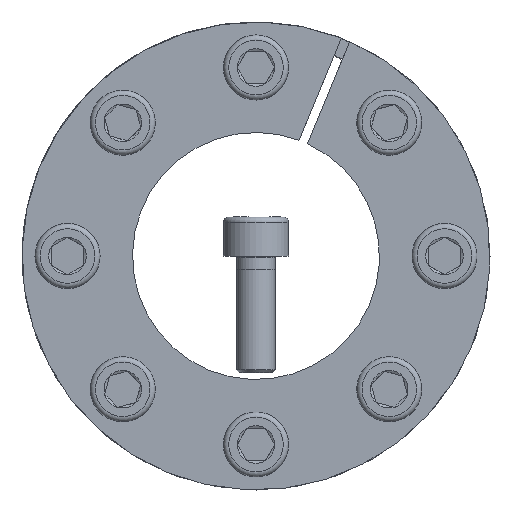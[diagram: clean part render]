
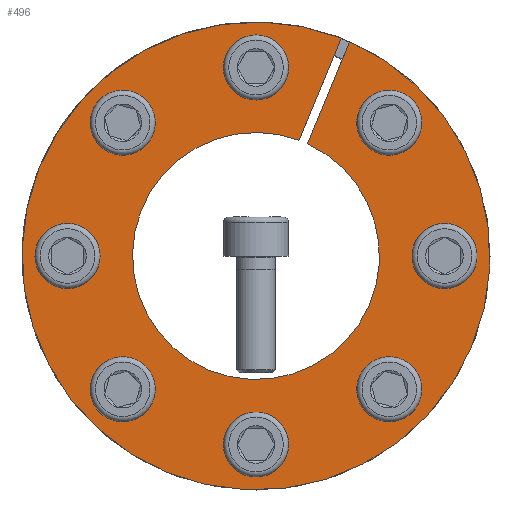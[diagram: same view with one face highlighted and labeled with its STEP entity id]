
A CAD part, front view. The second image highlights one B-rep face of the part: STEP entity #496.
In plain terms, the highlighted planar face has unit normal (0, -1, 0).
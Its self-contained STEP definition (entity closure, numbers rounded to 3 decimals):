
#496 = ADVANCED_FACE( '', ( #896, #897, #898, #899, #900, #901, #902, #903, #904 ), #905, .F. );
#896 = FACE_BOUND( '', #1468, .T. );
#897 = FACE_BOUND( '', #1469, .T. );
#898 = FACE_BOUND( '', #1470, .T. );
#899 = FACE_BOUND( '', #1471, .T. );
#900 = FACE_BOUND( '', #1472, .T. );
#901 = FACE_BOUND( '', #1473, .T. );
#902 = FACE_BOUND( '', #1474, .T. );
#903 = FACE_BOUND( '', #1475, .T. );
#904 = FACE_OUTER_BOUND( '', #1476, .T. );
#905 = PLANE( '', #1477 );
#1468 = EDGE_LOOP( '', ( #2149 ) );
#1469 = EDGE_LOOP( '', ( #2150 ) );
#1470 = EDGE_LOOP( '', ( #2151 ) );
#1471 = EDGE_LOOP( '', ( #2152 ) );
#1472 = EDGE_LOOP( '', ( #2153 ) );
#1473 = EDGE_LOOP( '', ( #2154 ) );
#1474 = EDGE_LOOP( '', ( #2155 ) );
#1475 = EDGE_LOOP( '', ( #2156 ) );
#1476 = EDGE_LOOP( '', ( #2157, #2158, #2159, #2160 ) );
#1477 = AXIS2_PLACEMENT_3D( '', #2161, #2162, #2163 );
#2149 = ORIENTED_EDGE( '', *, *, #3435, .T. );
#2150 = ORIENTED_EDGE( '', *, *, #3436, .T. );
#2151 = ORIENTED_EDGE( '', *, *, #3437, .T. );
#2152 = ORIENTED_EDGE( '', *, *, #3438, .T. );
#2153 = ORIENTED_EDGE( '', *, *, #3439, .T. );
#2154 = ORIENTED_EDGE( '', *, *, #3440, .T. );
#2155 = ORIENTED_EDGE( '', *, *, #3441, .T. );
#2156 = ORIENTED_EDGE( '', *, *, #3424, .T. );
#2157 = ORIENTED_EDGE( '', *, *, #3419, .T. );
#2158 = ORIENTED_EDGE( '', *, *, #3425, .T. );
#2159 = ORIENTED_EDGE( '', *, *, #3396, .T. );
#2160 = ORIENTED_EDGE( '', *, *, #3387, .F. );
#2161 = CARTESIAN_POINT( '', ( 0., 0., 36. ) );
#2162 = DIRECTION( '', ( 0., 1., 0. ) );
#2163 = DIRECTION( '', ( 0., 0., 1. ) );
#3387 = EDGE_CURVE( '', #3758, #3754, #3760, .T. );
#3396 = EDGE_CURVE( '', #3777, #3754, #3778, .T. );
#3419 = EDGE_CURVE( '', #3758, #3813, #3815, .T. );
#3424 = EDGE_CURVE( '', #3821, #3821, #3822, .T. );
#3425 = EDGE_CURVE( '', #3813, #3777, #3823, .T. );
#3435 = EDGE_CURVE( '', #3841, #3841, #3842, .T. );
#3436 = EDGE_CURVE( '', #3843, #3843, #3844, .T. );
#3437 = EDGE_CURVE( '', #3845, #3845, #3846, .T. );
#3438 = EDGE_CURVE( '', #3847, #3847, #3848, .T. );
#3439 = EDGE_CURVE( '', #3849, #3849, #3850, .T. );
#3440 = EDGE_CURVE( '', #3851, #3851, #3852, .T. );
#3441 = EDGE_CURVE( '', #3853, #3853, #3854, .T. );
#3754 = VERTEX_POINT( '', #4267 );
#3758 = VERTEX_POINT( '', #4272 );
#3760 = CIRCLE( '', #4275, 19. );
#3777 = VERTEX_POINT( '', #4300 );
#3778 = LINE( '', #4301, #4302 );
#3813 = VERTEX_POINT( '', #4366 );
#3815 = LINE( '', #4369, #4370 );
#3821 = VERTEX_POINT( '', #4376 );
#3822 = CIRCLE( '', #4377, 3. );
#3823 = CIRCLE( '', #4378, 36. );
#3841 = VERTEX_POINT( '', #4396 );
#3842 = CIRCLE( '', #4397, 3. );
#3843 = VERTEX_POINT( '', #4398 );
#3844 = CIRCLE( '', #4399, 3. );
#3845 = VERTEX_POINT( '', #4400 );
#3846 = CIRCLE( '', #4401, 3. );
#3847 = VERTEX_POINT( '', #4402 );
#3848 = CIRCLE( '', #4403, 3. );
#3849 = VERTEX_POINT( '', #4404 );
#3850 = CIRCLE( '', #4405, 3. );
#3851 = VERTEX_POINT( '', #4406 );
#3852 = CIRCLE( '', #4407, 3. );
#3853 = VERTEX_POINT( '', #4408 );
#3854 = CIRCLE( '', #4409, 3. );
#4267 = CARTESIAN_POINT( '', ( 7.926, 0., 17.268 ) );
#4272 = CARTESIAN_POINT( '', ( 6.606, 0., 17.815 ) );
#4275 = AXIS2_PLACEMENT_3D( '', #5232, #5233, #5234 );
#4300 = CARTESIAN_POINT( '', ( 14.434, 0., 32.98 ) );
#4301 = CARTESIAN_POINT( '', ( 14.437, 0., 32.986 ) );
#4302 = VECTOR( '', #5249, 1000. );
#4366 = CARTESIAN_POINT( '', ( 13.114, 0., 33.526 ) );
#4369 = CARTESIAN_POINT( '', ( 6.606, 0., 17.815 ) );
#4370 = VECTOR( '', #5274, 1000. );
#4376 = CARTESIAN_POINT( '', ( -18.385, 0., 22.627 ) );
#4377 = AXIS2_PLACEMENT_3D( '', #5287, #5288, #5289 );
#4378 = AXIS2_PLACEMENT_3D( '', #5290, #5291, #5292 );
#4396 = CARTESIAN_POINT( '', ( 3., 0., 29. ) );
#4397 = AXIS2_PLACEMENT_3D( '', #5320, #5321, #5322 );
#4398 = CARTESIAN_POINT( '', ( 22.627, 0., 18.385 ) );
#4399 = AXIS2_PLACEMENT_3D( '', #5323, #5324, #5325 );
#4400 = CARTESIAN_POINT( '', ( 29., 0., -3. ) );
#4401 = AXIS2_PLACEMENT_3D( '', #5326, #5327, #5328 );
#4402 = CARTESIAN_POINT( '', ( 18.385, 0., -22.627 ) );
#4403 = AXIS2_PLACEMENT_3D( '', #5329, #5330, #5331 );
#4404 = CARTESIAN_POINT( '', ( -3., 0., -29. ) );
#4405 = AXIS2_PLACEMENT_3D( '', #5332, #5333, #5334 );
#4406 = CARTESIAN_POINT( '', ( -22.627, 0., -18.385 ) );
#4407 = AXIS2_PLACEMENT_3D( '', #5335, #5336, #5337 );
#4408 = CARTESIAN_POINT( '', ( -29., 0., 3. ) );
#4409 = AXIS2_PLACEMENT_3D( '', #5338, #5339, #5340 );
#5232 = CARTESIAN_POINT( '', ( 0., 0., 0. ) );
#5233 = DIRECTION( '', ( 0., -1., 0. ) );
#5234 = DIRECTION( '', ( 0., 0., -1. ) );
#5249 = DIRECTION( '', ( -0.383, 0., -0.924 ) );
#5274 = DIRECTION( '', ( 0.383, 0., 0.924 ) );
#5287 = CARTESIAN_POINT( '', ( -20.506, 0., 20.506 ) );
#5288 = DIRECTION( '', ( 0., 1., 0. ) );
#5289 = DIRECTION( '', ( 0.707, 0., 0.707 ) );
#5290 = CARTESIAN_POINT( '', ( 0., 0., 0. ) );
#5291 = DIRECTION( '', ( 0., -1., 0. ) );
#5292 = DIRECTION( '', ( 0., 0., -1. ) );
#5320 = CARTESIAN_POINT( '', ( 0., 0., 29. ) );
#5321 = DIRECTION( '', ( 0., 1., 0. ) );
#5322 = DIRECTION( '', ( 1., 0., 0. ) );
#5323 = CARTESIAN_POINT( '', ( 20.506, 0., 20.506 ) );
#5324 = DIRECTION( '', ( 0., 1., 0. ) );
#5325 = DIRECTION( '', ( 0.707, 0., -0.707 ) );
#5326 = CARTESIAN_POINT( '', ( 29., 0., 0. ) );
#5327 = DIRECTION( '', ( 0., 1., 0. ) );
#5328 = DIRECTION( '', ( 0., 0., -1. ) );
#5329 = CARTESIAN_POINT( '', ( 20.506, 0., -20.506 ) );
#5330 = DIRECTION( '', ( 0., 1., 0. ) );
#5331 = DIRECTION( '', ( -0.707, 0., -0.707 ) );
#5332 = CARTESIAN_POINT( '', ( 0., 0., -29. ) );
#5333 = DIRECTION( '', ( 0., 1., 0. ) );
#5334 = DIRECTION( '', ( -1., 0., 0. ) );
#5335 = CARTESIAN_POINT( '', ( -20.506, 0., -20.506 ) );
#5336 = DIRECTION( '', ( 0., 1., 0. ) );
#5337 = DIRECTION( '', ( -0.707, 0., 0.707 ) );
#5338 = CARTESIAN_POINT( '', ( -29., 0., 0. ) );
#5339 = DIRECTION( '', ( 0., 1., 0. ) );
#5340 = DIRECTION( '', ( 0., 0., 1. ) );
